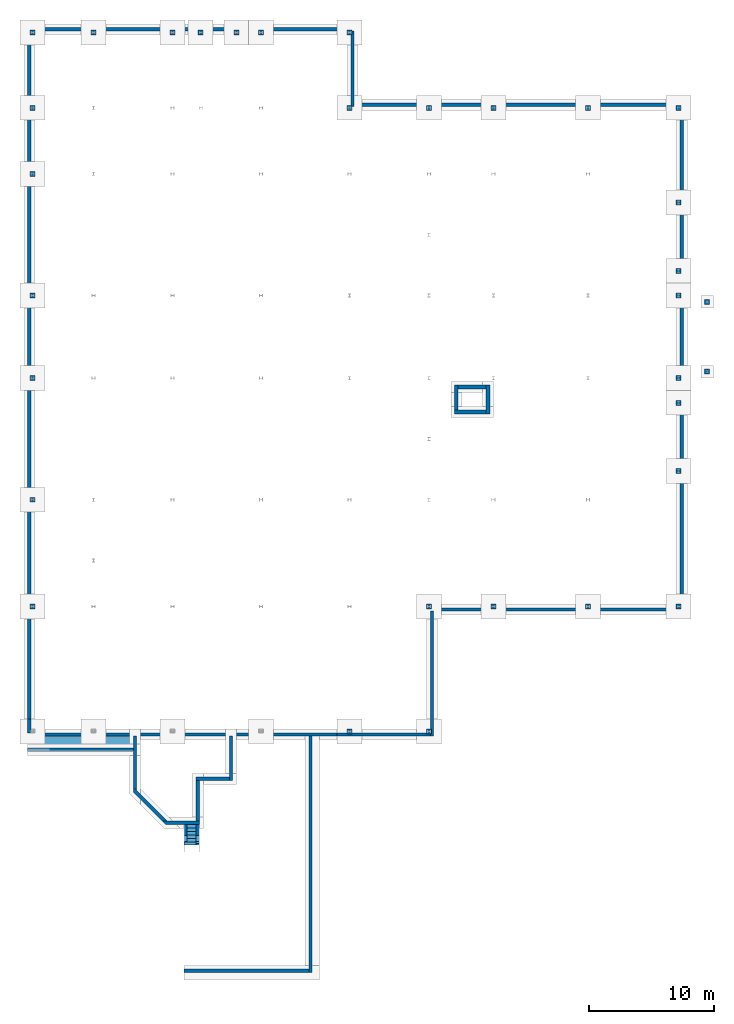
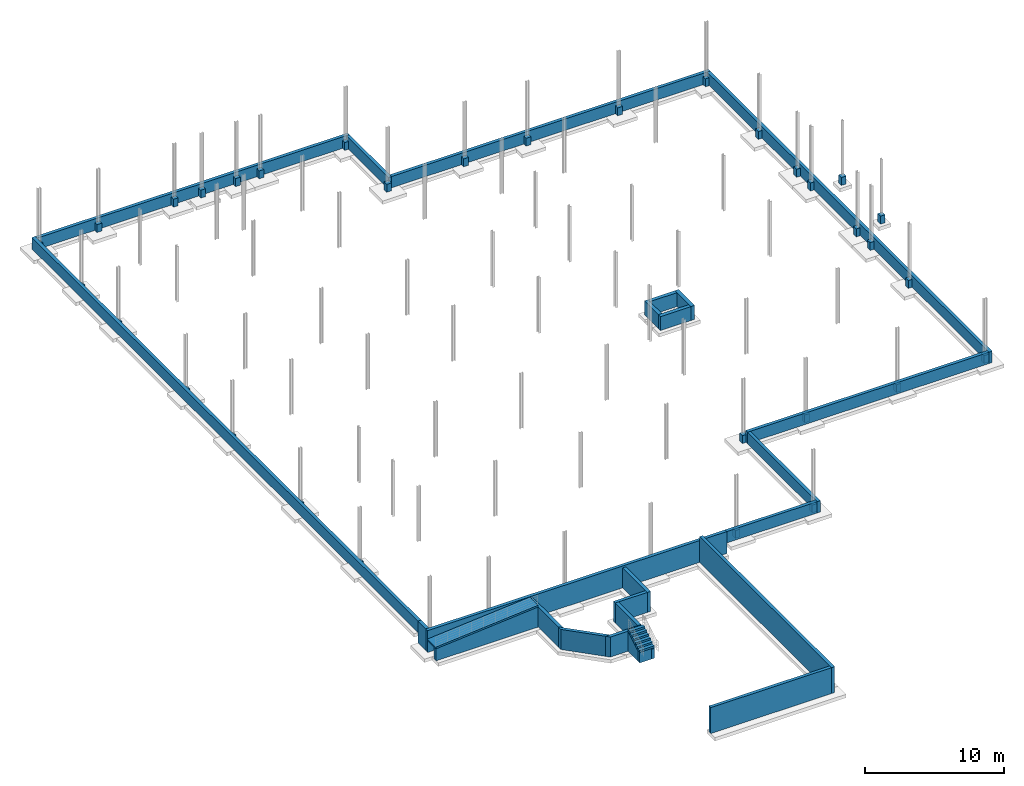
# One storey, part 10 of 11: 32 columns, 26 walls, 1 ramp flight, 1 stair flight, 2 openings, 2 elements without a shape of their own.
"""IFC2X3 building model written with IfcOpenShell, lengths in metres."""

from ifc_helpers import new_model, entity, si_unit, converted_unit, frame, frame_2d, origin, place, context, project, spatial, polyline, rectangle, outline, extrude, clip, halfspace, source, transform, mapped, material, layer, layer_set, layer_usage, type_object, type_shapes, element, aggregate, save


model = new_model("IFC2X3")

# Units and contexts
model_context = context("Model", 3, precision=1e-09, world=origin())
plan_context = context("Plan", 3, precision=1e-09, world=origin())
ifc_project = project(units=[si_unit("LENGTHUNIT", "METRE"), si_unit("AREAUNIT", "SQUARE_METRE"), si_unit("VOLUMEUNIT", "CUBIC_METRE"), converted_unit("PLANEANGLEUNIT", "DEGREE", entity("IfcRatioMeasure", 0.01745329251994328), si_unit("PLANEANGLEUNIT", "RADIAN"), dimensions=[0, 0, 0, 0, 0, 0, 0]), si_unit("TIMEUNIT", "SECOND")], contexts=[model_context, plan_context])

# Site, building, storey
site_placement = place(None, origin())
site = spatial("IfcSite", under=ifc_project, at=site_placement, Name="Default", CompositionType="ELEMENT")
building_placement = place(site_placement, origin())
building = spatial("IfcBuilding", under=site, at=building_placement, CompositionType="ELEMENT")
storey_placement = place(building_placement, frame((0.0, 0.0, -1.0)))
storey = spatial("IfcBuildingStorey", under=building, at=storey_placement, Name="TOF Footing", CompositionType="ELEMENT", Elevation=-1.000000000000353)

# Columns
ifc_material_1 = material(Name="Concrete - Cast-in-Place Concrete")
column_type = type_object("IfcColumnType", Name="400 x 400mm", PredefinedType="COLUMN")
shared_shape = source(origin(), model_context, "Body", "SweptSolid", [
    extrude(rectangle(XDim=0.4, YDim=0.4, at=frame_2d((0.0, 0.0), x_axis=(0.0, -1.0))), origin(), (0.0, 0.0, 1.0), 0.6950000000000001),
])
type_shapes(column_type, [shared_shape])
for number, where, z_axis, x_axis, name in (
    (1, (-47.0, 56.14000000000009, 0.0), (0.0, 0.0, 1.0), (0.0, 1.0, 0.0), "M_Concrete-Rectangular-Column:400 x 400mm:400 x 400mm"),
    (2, (-51.89999999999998, 56.14000000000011, 0.0), (0.0, 0.0, 1.0), (0.0, 1.0, 0.0), "M_Concrete-Rectangular-Column:400 x 400mm:400 x 400mm"),
):
    element("IfcColumn", number, at=place(storey_placement, frame(where, z_axis=z_axis, x_axis=x_axis)), inside=storey, type_object=column_type, material=ifc_material_1, Name=name, ObjectType="400 x 400mm", context=model_context, shape_type="MappedRepresentation", body=[
        mapped(shared_shape, transform((0.0, 0.0, 0.0), scale=1.0)),
    ])
column_1_placement = place(storey_placement, frame((0.0, 26.39881580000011, 0.0)))
element("IfcColumn", 3, at=column_1_placement, inside=storey, type_object=column_type, material=ifc_material_1, Name="M_Concrete-Rectangular-Column:400 x 400mm:400 x 400mm", ObjectType="400 x 400mm", context=model_context, shape_type="MappedRepresentation", body=[
    mapped(shared_shape, transform((0.0, 0.0, 0.0), scale=1.0)),
])
for number, where, z_axis, x_axis, name in (
    (4, (-14.87997499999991, 50.08999999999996, 0.0), (0.0, 0.0, 1.0), (0.0, 1.0, 0.0), "M_Concrete-Rectangular-Column:400 x 400mm:400 x 400mm"),
    (5, (-51.89999999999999, 44.78000000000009, 0.0), (0.0, 0.0, 1.0), (0.0, -1.0, 0.0), "M_Concrete-Rectangular-Column:400 x 400mm:400 x 400mm"),
    (6, (-7.280000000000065, 10.03999999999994, 0.0), (0.0, 0.0, 1.0), (0.0, 1.0, 0.0), "M_Concrete-Rectangular-Column:400 x 400mm:400 x 400mm"),
    (7, (-35.50999999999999, 56.14000000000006, 0.0), (0.0, 0.0, 1.0), (0.0, 1.0, 0.0), "M_Concrete-Rectangular-Column:400 x 400mm:400 x 400mm"),
    (8, (-26.44, 50.09, 0.0), (0.0, 0.0, 1.0), (0.0, 1.0, 0.0), "M_Concrete-Rectangular-Column:400 x 400mm:400 x 400mm"),
    (9, (-38.38999999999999, 56.14000000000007, 0.0), (0.0, 0.0, 1.0), (0.0, 1.0, 0.0), "M_Concrete-Rectangular-Column:400 x 400mm:400 x 400mm"),
    (10, (0.0, 42.47764480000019, 0.0), (0.0, 0.0, 1.0), (-1.0, 0.0, 0.0), "M_Concrete-Rectangular-Column:400 x 400mm:400 x 400mm"),
):
    element("IfcColumn", number, at=place(storey_placement, frame(where, z_axis=z_axis, x_axis=x_axis)), inside=storey, type_object=column_type, material=ifc_material_1, Name=name, ObjectType="400 x 400mm", context=model_context, shape_type="MappedRepresentation", body=[
        mapped(shared_shape, transform((0.0, 0.0, 0.0), scale=1.0)),
    ])
column_2_placement = place(storey_placement, frame((2.284999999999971, 28.89499999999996, 0.0)))
element("IfcColumn", 11, at=column_2_placement, inside=storey, type_object=column_type, material=ifc_material_1, Name="M_Concrete-Rectangular-Column:400 x 400mm:400 x 400mm", ObjectType="400 x 400mm", context=model_context, shape_type="MappedRepresentation", body=[
    mapped(shared_shape, transform((0.0, 0.0, 0.0), scale=1.0)),
])
column_3_placement = place(storey_placement, frame((-26.43999999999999, 56.14000000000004, 0.0), z_axis=(0.0, 0.0, 1.0), x_axis=(0.0, 1.0, 0.0)))
element("IfcColumn", 12, at=column_3_placement, inside=storey, type_object=column_type, material=ifc_material_1, Name="M_Concrete-Rectangular-Column:400 x 400mm:400 x 400mm", ObjectType="400 x 400mm", context=model_context, shape_type="MappedRepresentation", body=[
    mapped(shared_shape, transform((0.0, 0.0, 0.0), scale=1.0)),
])
column_4_placement = place(storey_placement, frame((0.0, 28.37999999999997, 0.0)))
element("IfcColumn", 13, at=column_4_placement, inside=storey, type_object=column_type, material=ifc_material_1, Name="M_Concrete-Rectangular-Column:400 x 400mm:400 x 400mm", ObjectType="400 x 400mm", context=model_context, shape_type="MappedRepresentation", body=[
    mapped(shared_shape, transform((0.0, 0.0, 0.0), scale=1.0)),
])
for number, where, z_axis, x_axis, name in (
    (14, (-14.87997499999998, 10.03999999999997, 0.0), (0.0, 0.0, 1.0), (0.0, 1.0, 0.0), "M_Concrete-Rectangular-Column:400 x 400mm:400 x 400mm"),
    (15, (0.0, 10.03999999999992, 0.0), (0.0, 0.0, 1.0), (0.0, 1.0, 0.0), "M_Concrete-Rectangular-Column:400 x 400mm:400 x 400mm"),
):
    element("IfcColumn", number, at=place(storey_placement, frame(where, z_axis=z_axis, x_axis=x_axis)), inside=storey, type_object=column_type, material=ifc_material_1, Name=name, ObjectType="400 x 400mm", context=model_context, shape_type="MappedRepresentation", body=[
        mapped(shared_shape, transform((0.0, 0.0, 0.0), scale=1.0)),
    ])
column_5_placement = place(storey_placement, frame((0.0, 20.90889399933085, 0.0)))
element("IfcColumn", 16, at=column_5_placement, inside=storey, type_object=column_type, material=ifc_material_1, Name="M_Concrete-Rectangular-Column:400 x 400mm:400 x 400mm", ObjectType="400 x 400mm", context=model_context, shape_type="MappedRepresentation", body=[
    mapped(shared_shape, transform((0.0, 0.0, 0.0), scale=1.0)),
])
for number, where, z_axis, x_axis, name in (
    (17, (-20.05999999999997, 50.08999999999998, 0.0), (0.0, 0.0, 1.0), (0.0, 1.0, 0.0), "M_Concrete-Rectangular-Column:400 x 400mm:400 x 400mm"),
    (18, (-51.90000000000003, 18.61000000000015, 0.0), (0.0, 0.0, 1.0), (0.0, 1.0, 0.0), "M_Concrete-Rectangular-Column:400 x 400mm:400 x 400mm"),
    (19, (-51.89999999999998, 50.09000000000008, 0.0), (0.0, 0.0, 1.0), (0.0, -1.0, 0.0), "M_Concrete-Rectangular-Column:400 x 400mm:400 x 400mm"),
    (20, (-51.90000000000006, 10.04000000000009, 0.0), (0.0, 0.0, 1.0), (0.0, 1.0, 0.0), "M_Concrete-Rectangular-Column:400 x 400mm:400 x 400mm"),
    (21, (-40.65999999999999, 56.14000000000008, 0.0), (0.0, 0.0, 1.0), (0.0, 1.0, 0.0), "M_Concrete-Rectangular-Column:400 x 400mm:400 x 400mm"),
    (22, (-7.279999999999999, 50.08999999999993, 0.0), (0.0, 0.0, 1.0), (0.0, 1.0, 0.0), "M_Concrete-Rectangular-Column:400 x 400mm:400 x 400mm"),
    (23, (-20.06000000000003, 10.03999999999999, 0.0), (0.0, 0.0, 1.0), (0.0, 1.0, 0.0), "M_Concrete-Rectangular-Column:400 x 400mm:400 x 400mm"),
    (24, (0.0, 36.99124480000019, 0.0), (0.0, 0.0, 1.0), (-1.0, 0.0, 0.0), "M_Concrete-Rectangular-Column:400 x 400mm:400 x 400mm"),
    (25, (-51.90000000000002, 28.38000000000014, 0.0), (0.0, 0.0, 1.0), (0.0, -1.0, 0.0), "M_Concrete-Rectangular-Column:400 x 400mm:400 x 400mm"),
    (26, (-20.06000000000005, 0.0, 0.0), (0.0, 0.0, 1.0), (0.0, 1.0, 0.0), "M_Concrete-Rectangular-Column:400 x 400mm:400 x 400mm"),
    (27, (-33.54999999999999, 56.14000000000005, 0.0), (0.0, 0.0, 1.0), (0.0, 1.0, 0.0), "M_Concrete-Rectangular-Column:400 x 400mm:400 x 400mm"),
    (28, (0.0, 35.00999999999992, 0.0), (0.0, 0.0, 1.0), (-1.0, 0.0, 0.0), "M_Concrete-Rectangular-Column:400 x 400mm:400 x 400mm"),
    (29, (0.0, 50.08999999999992, 0.0), (0.0, 0.0, 1.0), (0.0, 1.0, 0.0), "M_Concrete-Rectangular-Column:400 x 400mm:400 x 400mm"),
    (30, (-26.44000000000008, 0.0, 0.0), (0.0, 0.0, 1.0), (0.0, 1.0, 0.0), "M_Concrete-Rectangular-Column:400 x 400mm:400 x 400mm"),
    (31, (-51.90000000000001, 35.01000000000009, 0.0), (0.0, 0.0, 1.0), (0.0, -1.0, 0.0), "M_Concrete-Rectangular-Column:400 x 400mm:400 x 400mm"),
    (32, (2.284999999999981, 34.49499999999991, 0.0), (0.0, 0.0, 1.0), (-1.0, 0.0, 0.0), "M_Concrete-Rectangular-Column:400 x 400mm:400 x 400mm"),
):
    element("IfcColumn", number, at=place(storey_placement, frame(where, z_axis=z_axis, x_axis=x_axis)), inside=storey, type_object=column_type, material=ifc_material_1, Name=name, ObjectType="400 x 400mm", context=model_context, shape_type="MappedRepresentation", body=[
        mapped(shared_shape, transform((0.0, 0.0, 0.0), scale=1.0)),
    ])

# Walls
ifc_material_2 = material(Name="Concrete - Cast In Situ")
ifc_layer_1 = layer(ifc_material_2, 0.264)
ifc_layer_set_1 = layer_set([ifc_layer_1], Name="Basic Wall:Foundation - Concrete (264mm)")
ifc_layer_usage_1 = layer_usage(ifc_layer_set_1, "AXIS2", "NEGATIVE", 0.132)
wall_1_placement = place(storey_placement, frame((-27.44000000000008, -0.2480000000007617, -0.9149999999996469), z_axis=(0.0, 0.0, 1.0), x_axis=(-1.0, 0.0, 0.0)))
element("IfcWallStandardCase", 33, at=wall_1_placement, inside=storey, material=ifc_layer_usage_1, Name="Basic Wall:Foundation - Concrete (264mm)", ObjectType="Basic Wall:Foundation - Concrete (264mm)", context=model_context, shape_type="SweptSolid", body=[
    extrude(rectangle(XDim=24.84000000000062, YDim=0.264, at=frame_2d((12.42000000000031, 0.0), x_axis=(-1.0, 0.0))), origin(), (0.0, 0.0, 1.0), 1.914999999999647),
])
wall_2_placement = place(storey_placement, frame((-43.66840000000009, -4.740647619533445, -0.9149999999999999), z_axis=(0.0, 0.0, 1.0), x_axis=(0.0, 1.0, 0.0)))
element("IfcWallStandardCase", 34, at=wall_2_placement, inside=storey, material=ifc_layer_usage_1, Name="Basic Wall:Foundation - Concrete (264mm)", ObjectType="Basic Wall:Foundation - Concrete (264mm)", context=model_context, shape_type="SweptSolid", body=[
    extrude(outline(polyline([(4.360647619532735, -0.1320000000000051), (4.360647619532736, 0.1319999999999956), (3.404647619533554, 0.1319999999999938), (3.140647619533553, 0.1319999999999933), (0.264000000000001, 0.1319999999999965), (0.0, -0.1320000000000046), (4.360647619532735, -0.1320000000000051)])), origin(), (0.0, 0.0, 1.0), 1.765),
])
wall_3_placement = place(storey_placement, frame((-52.14800000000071, -0.1160000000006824, -0.9149999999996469), z_axis=(0.0, 0.0, 1.0), x_axis=(0.0, 1.0, 0.0)))
element("IfcWallStandardCase", 35, at=wall_3_placement, inside=storey, material=ifc_layer_usage_1, Name="Basic Wall:Foundation - Concrete (264mm)", ObjectType="Basic Wall:Foundation - Concrete (264mm)", context=model_context, shape_type="SweptSolid", body=[
    extrude(rectangle(XDim=1.11600000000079, YDim=0.263999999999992, at=frame_2d((0.5580000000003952, 0.0), x_axis=(-1.0, 0.0))), origin(), (0.0, 0.0, 1.0), 1.914999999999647),
])
wall_4_placement = place(storey_placement, frame((-41.17762879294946, -7.286095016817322, -0.9149999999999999), z_axis=(0.0, 0.0, 1.0), x_axis=(-0.7071067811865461, 0.7071067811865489, 0.0)))
element("IfcWallStandardCase", 36, at=wall_4_placement, inside=storey, material=ifc_layer_usage_1, Name="Basic Wall:Foundation - Concrete (264mm)", ObjectType="Basic Wall:Foundation - Concrete (264mm)", context=model_context, shape_type="SweptSolid", body=[
    extrude(outline(polyline([(3.841158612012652, -0.1319999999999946), (3.577158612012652, 0.1320000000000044), (0.2640000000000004, 0.1320000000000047), (0.0, -0.131999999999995), (3.467806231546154, -0.1319999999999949), (3.841158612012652, -0.1319999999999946)])), origin(), (0.0, 0.0, 1.0), 1.765),
])
ifc_layer_2 = layer(ifc_material_2, 0.3)
ifc_layer_set_2 = layer_set([ifc_layer_2], Name="Basic Wall:Foundation - Concrete (300mm)")
ifc_layer_usage_2 = layer_usage(ifc_layer_set_2, "AXIS2", "POSITIVE", -0.15)
wall_5_placement = place(storey_placement, frame((-17.85520000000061, 25.80739999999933, -0.3692), z_axis=(0.0, 0.0, 1.0), x_axis=(0.0, 1.0, 0.0)))
element("IfcWallStandardCase", 37, at=wall_5_placement, inside=storey, material=ifc_layer_usage_2, Name="Basic Wall:Foundation - Concrete (300mm)", ObjectType="Basic Wall:Foundation - Concrete (300mm)", context=model_context, shape_type="SweptSolid", body=[
    extrude(rectangle(XDim=2.014499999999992, YDim=0.3000000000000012, at=frame_2d((1.007249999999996, 0.0), x_axis=(-1.0, 0.0))), origin(), (0.0, 0.0, 1.0), 1.2192),
])
wall_6_placement = place(storey_placement, frame((-15.47000000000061, 25.65739999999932, -0.3692), z_axis=(0.0, 0.0, 1.0), x_axis=(-1.0, 0.0, 0.0)))
element("IfcWallStandardCase", 38, at=wall_6_placement, inside=storey, material=ifc_layer_usage_2, Name="Basic Wall:Foundation - Concrete (300mm)", ObjectType="Basic Wall:Foundation - Concrete (300mm)", context=model_context, shape_type="SweptSolid", body=[
    extrude(rectangle(XDim=2.5352, YDim=0.3000000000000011, at=frame_2d((1.2676, 0.0), x_axis=(-1.0, 0.0))), origin(), (0.0, 0.0, 1.0), 1.2192),
])
wall_7_placement = place(storey_placement, frame((-17.70520000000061, 27.67189999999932, -0.3692)))
element("IfcWallStandardCase", 39, at=wall_7_placement, inside=storey, material=ifc_layer_usage_2, Name="Basic Wall:Foundation - Concrete (300mm)", ObjectType="Basic Wall:Foundation - Concrete (300mm)", context=model_context, shape_type="SweptSolid", body=[
    extrude(rectangle(XDim=2.235200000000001, YDim=0.3000000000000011, at=frame_2d((1.1176, 0.0), x_axis=(-1.0, 0.0))), origin(), (0.0, 0.0, 1.0), 1.2192),
])
wall_8_placement = place(storey_placement, frame((-52.14800000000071, 1.0, 0.0), z_axis=(0.0, 0.0, 1.0), x_axis=(0.0, 1.0, 0.0)))
element("IfcWallStandardCase", 40, at=wall_8_placement, inside=storey, material=ifc_layer_usage_1, Name="Basic Wall:Foundation - Concrete (264mm)", ObjectType="Basic Wall:Foundation - Concrete (264mm)", context=model_context, shape_type="SweptSolid", body=[
    extrude(rectangle(XDim=55.51999999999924, YDim=0.263999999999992, at=frame_2d((27.75999999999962, 0.0), x_axis=(-1.0, 0.0))), origin(), (0.0, 0.0, 1.0), 1.0),
])

# Wall, opening
wall_9_placement = place(storey_placement, frame((-38.6215618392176, -7.45675692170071, -0.9149999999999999), z_axis=(0.0, 0.0, 1.0), x_axis=(0.0, -1.0, 0.0)))
wall_9 = element("IfcWallStandardCase", 41, at=wall_9_placement, inside=storey, material=ifc_layer_usage_1, Name="Basic Wall:Foundation - Concrete (264mm)", ObjectType="Basic Wall:Foundation - Concrete (264mm)", context=model_context, shape_type="Clipping", body=[
    clip(extrude(rectangle(XDim=1.679999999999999, YDim=0.2640000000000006, at=frame_2d((0.8399999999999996, 0.0), x_axis=(-1.0, 0.0))), origin(), (0.0, 0.0, 1.0), 1.765), halfspace(frame((0.0, 0.0, 1.740437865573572), z_axis=(0.470516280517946, 0.0, 0.8823913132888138), x_axis=(0.0, -1.0, 0.0)), False)),
])
opening_1_placement = place(wall_9_placement, frame((0.9782452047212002, 0.132000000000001, 1.190145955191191)))
element("IfcOpeningElement", 42, at=opening_1_placement, cuts=wall_9, Name="Basic Wall:Foundation - Concrete (264mm):2", ObjectType="Opening", context=model_context, shape_type="SweptSolid", body=[
    extrude(outline(polyline([(-1.122064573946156, -0.02749471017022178), (0.4917456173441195, -0.02749471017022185), (0.6303189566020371, 0.05498942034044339), (-1.122064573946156, -0.02749471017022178)])), frame((0.0, 0.0, 0.0), z_axis=(0.0, -1.0, 0.0), x_axis=(0.8592928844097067, 0.0, -0.5114838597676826)), (0.0, 0.0, 1.0), 0.264),
])

# Walls
wall_10_placement = place(storey_placement, frame((-19.9440000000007, -0.2480000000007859, 0.0), z_axis=(0.0, 0.0, 1.0), x_axis=(-1.0, 0.0, 0.0)))
element("IfcWallStandardCase", 43, at=wall_10_placement, inside=storey, material=ifc_layer_usage_1, Name="Basic Wall:Foundation - Concrete (264mm)", ObjectType="Basic Wall:Foundation - Concrete (264mm)", context=model_context, shape_type="SweptSolid", body=[
    extrude(rectangle(XDim=7.495999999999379, YDim=0.264, at=frame_2d((3.747999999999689, 0.0), x_axis=(-1.0, 0.0))), origin(), (0.0, 0.0, 1.0), 1.0),
])
wall_11_placement = place(storey_placement, frame((-38.48956183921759, -7.324756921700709, -0.9149999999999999), z_axis=(0.0, 0.0, 1.0), x_axis=(-1.0, 0.0, 0.0)))
element("IfcWallStandardCase", 44, at=wall_11_placement, inside=storey, material=ifc_layer_usage_1, Name="Basic Wall:Foundation - Concrete (264mm)", ObjectType="Basic Wall:Foundation - Concrete (264mm)", context=model_context, shape_type="SweptSolid", body=[
    extrude(outline(polyline([(2.968081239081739, -0.1319999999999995), (2.704081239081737, 0.1320000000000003), (0.0, 0.1320000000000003), (0.0, -0.1319999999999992), (0.264000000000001, -0.1319999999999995), (2.594728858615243, -0.1319999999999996), (2.968081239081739, -0.1319999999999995)])), origin(), (0.0, 0.0, 1.0), 1.765),
])
wall_12_placement = place(storey_placement, frame((-35.9615618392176, -0.3800000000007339, -0.9149999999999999), z_axis=(0.0, 0.0, 1.0), x_axis=(0.0, -1.0, 0.0)))
element("IfcWallStandardCase", 45, at=wall_12_placement, inside=storey, material=ifc_layer_usage_1, Name="Basic Wall:Foundation - Concrete (264mm)", ObjectType="Basic Wall:Foundation - Concrete (264mm)", context=model_context, shape_type="SweptSolid", body=[
    extrude(rectangle(XDim=3.559999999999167, YDim=0.2640000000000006, at=frame_2d((1.779999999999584, 0.0), x_axis=(-1.0, 0.0))), origin(), (0.0, 0.0, 1.0), 1.765),
])
wall_13_placement = place(storey_placement, frame((-26.06000000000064, 50.33799999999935, 0.0)))
element("IfcWallStandardCase", 46, at=wall_13_placement, inside=storey, material=ifc_layer_usage_1, Name="Basic Wall:Foundation - Concrete (264mm)", ObjectType="Basic Wall:Foundation - Concrete (264mm)", context=model_context, shape_type="SweptSolid", body=[
    extrude(rectangle(XDim=26.44000000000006, YDim=0.263999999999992, at=frame_2d((13.22000000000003, 0.0), x_axis=(-1.0, 0.0))), origin(), (0.0, 0.0, 1.0), 1.0),
])
wall_14_placement = place(storey_placement, frame((-15.32000000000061, 27.82189999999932, -0.3692), z_axis=(0.0, 0.0, 1.0), x_axis=(0.0, -1.0, 0.0)))
element("IfcWallStandardCase", 47, at=wall_14_placement, inside=storey, material=ifc_layer_usage_2, Name="Basic Wall:Foundation - Concrete (300mm)", ObjectType="Basic Wall:Foundation - Concrete (300mm)", context=model_context, shape_type="SweptSolid", body=[
    extrude(rectangle(XDim=2.314500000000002, YDim=0.3000000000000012, at=frame_2d((1.157250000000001, 0.0), x_axis=(-1.0, 0.0))), origin(), (0.0, 0.0, 1.0), 1.2192),
])

# Wall, opening
wall_15_placement = place(storey_placement, frame((-39.6075618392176, -8.872756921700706, -0.9149999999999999), z_axis=(0.0, 0.0, 1.0), x_axis=(0.0, 1.0, 0.0)))
wall_15 = element("IfcWallStandardCase", 48, at=wall_15_placement, inside=storey, material=ifc_layer_usage_1, Name="Basic Wall:Foundation - Concrete (264mm)", ObjectType="Basic Wall:Foundation - Concrete (264mm)", context=model_context, shape_type="Clipping", body=[
    clip(extrude(rectangle(XDim=1.415999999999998, YDim=0.263999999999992, at=frame_2d((0.7079999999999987, 0.0), x_axis=(-1.0, 0.0))), origin(), (0.0, 0.0, 1.0), 1.765), halfspace(frame((1.415999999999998, 0.0, 1.740437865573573), z_axis=(-0.4705162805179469, 0.0, 0.8823913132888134), x_axis=(0.0, 1.0, 0.0)), False)),
])
opening_2_placement = place(wall_15_placement, frame((0.4377547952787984, 0.131999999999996, 1.190145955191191)))
element("IfcOpeningElement", 49, at=opening_2_placement, cuts=wall_15, Name="Basic Wall:Foundation - Concrete (264mm):2", ObjectType="Opening", context=model_context, shape_type="SweptSolid", body=[
    extrude(outline(polyline([(-1.122116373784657, -0.02529250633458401), (0.6322073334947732, -0.02529250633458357), (0.4899090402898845, 0.05058501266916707), (-1.122116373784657, -0.02529250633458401)])), frame((0.0, 0.0, 0.0), z_axis=(0.0, -1.0, 0.0), x_axis=(-0.8823913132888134, 0.0, -0.4705162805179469)), (0.0, 0.0, 1.0), 0.264),
])

# Walls
wall_16_placement = place(storey_placement, frame((-38.62156183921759, -3.939999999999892, -0.9149999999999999), z_axis=(0.0, 0.0, 1.0), x_axis=(0.0, -1.0, 0.0)))
element("IfcWallStandardCase", 50, at=wall_16_placement, inside=storey, material=ifc_layer_usage_1, Name="Basic Wall:Foundation - Concrete (264mm)", ObjectType="Basic Wall:Foundation - Concrete (264mm)", context=model_context, shape_type="SweptSolid", body=[
    extrude(rectangle(XDim=3.252756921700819, YDim=0.2640000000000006, at=frame_2d((1.62637846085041, 0.0), x_axis=(-1.0, 0.0))), origin(), (0.0, 0.0, 1.0), 1.765),
])
wall_17_placement = place(storey_placement, frame((-26.19200000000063, 56.25599999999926, 0.0), z_axis=(0.0, 0.0, 1.0), x_axis=(0.0, -1.0, 0.0)))
element("IfcWallStandardCase", 51, at=wall_17_placement, inside=storey, material=ifc_layer_usage_1, Name="Basic Wall:Foundation - Concrete (264mm)", ObjectType="Basic Wall:Foundation - Concrete (264mm)", context=model_context, shape_type="SweptSolid", body=[
    extrude(rectangle(XDim=6.049999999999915, YDim=0.2640000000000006, at=frame_2d((3.024999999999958, 0.0), x_axis=(-1.0, 0.0))), origin(), (0.0, 0.0, 1.0), 1.0),
])
wall_18_placement = place(storey_placement, frame((-36.0935618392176, -3.8079999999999, -0.9149999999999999), z_axis=(0.0, 0.0, 1.0), x_axis=(-1.0, 0.0, 0.0)))
element("IfcWallStandardCase", 52, at=wall_18_placement, inside=storey, material=ifc_layer_usage_1, Name="Basic Wall:Foundation - Concrete (264mm)", ObjectType="Basic Wall:Foundation - Concrete (264mm)", context=model_context, shape_type="SweptSolid", body=[
    extrude(rectangle(XDim=2.659999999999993, YDim=0.2639999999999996, at=frame_2d((1.329999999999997, 0.0), x_axis=(-1.0, 0.0))), origin(), (0.0, 0.0, 1.0), 1.765),
])
wall_19_placement = place(storey_placement, frame((-38.7535618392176, -9.004756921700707, -0.9149999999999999), z_axis=(0.0, 0.0, 1.0), x_axis=(-1.0, 0.0, 0.0)))
element("IfcWallStandardCase", 53, at=wall_19_placement, inside=storey, material=ifc_layer_usage_1, Name="Basic Wall:Foundation - Concrete (264mm)", ObjectType="Basic Wall:Foundation - Concrete (264mm)", context=model_context, shape_type="SweptSolid", body=[
    extrude(rectangle(XDim=0.9859999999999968, YDim=0.2640000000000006, at=frame_2d((0.4929999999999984, 0.0), x_axis=(-1.0, 0.0))), origin(), (0.0, 0.0, 1.0), 0.9150000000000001),
])
wall_20_placement = place(storey_placement, frame((-19.81200000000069, 9.659999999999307, 0.0), z_axis=(0.0, 0.0, 1.0), x_axis=(0.0, -1.0, 0.0)))
element("IfcWallStandardCase", 54, at=wall_20_placement, inside=storey, material=ifc_layer_usage_1, Name="Basic Wall:Foundation - Concrete (264mm)", ObjectType="Basic Wall:Foundation - Concrete (264mm)", context=model_context, shape_type="SweptSolid", body=[
    extrude(rectangle(XDim=10.0400000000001, YDim=0.2640000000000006, at=frame_2d((5.020000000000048, 0.0), x_axis=(-1.0, 0.0))), origin(), (0.0, 0.0, 1.0), 1.0),
])
wall_21_placement = place(storey_placement, frame((-29.7085618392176, -19.2275030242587, -0.9149999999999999), z_axis=(0.0, 0.0, 1.0), x_axis=(-1.0, 0.0, 0.0)))
element("IfcWallStandardCase", 55, at=wall_21_placement, inside=storey, material=ifc_layer_usage_1, Name="Basic Wall:Foundation - Concrete (264mm)", ObjectType="Basic Wall:Foundation - Concrete (264mm)", context=model_context, shape_type="SweptSolid", body=[
    extrude(rectangle(XDim=10.03100000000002, YDim=0.2640000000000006, at=frame_2d((5.01550000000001, 0.0), x_axis=(-1.0, 0.0))), origin(), (0.0, 0.0, 1.0), 2.275),
])
wall_22_placement = place(storey_placement, frame((0.1159999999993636, 9.791999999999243, 0.0), z_axis=(0.0, 0.0, 1.0), x_axis=(-1.0, 0.0, 0.0)))
element("IfcWallStandardCase", 56, at=wall_22_placement, inside=storey, material=ifc_layer_usage_1, Name="Basic Wall:Foundation - Concrete (264mm)", ObjectType="Basic Wall:Foundation - Concrete (264mm)", context=model_context, shape_type="SweptSolid", body=[
    extrude(rectangle(XDim=20.06000000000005, YDim=0.2639999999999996, at=frame_2d((10.03000000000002, 0.0), x_axis=(-1.0, 0.0))), origin(), (0.0, 0.0, 1.0), 1.0),
])
wall_23_placement = place(storey_placement, frame((-29.57656183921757, -0.380000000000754, -0.9149999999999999), z_axis=(0.0, 0.0, 1.0), x_axis=(0.0, -1.0, 0.0)))
element("IfcWallStandardCase", 57, at=wall_23_placement, inside=storey, material=ifc_layer_usage_1, Name="Basic Wall:Foundation - Concrete (264mm)", ObjectType="Basic Wall:Foundation - Concrete (264mm)", context=model_context, shape_type="SweptSolid", body=[
    extrude(rectangle(XDim=18.97950302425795, YDim=0.2640000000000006, at=frame_2d((9.489751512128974, 0.0), x_axis=(-1.0, 0.0))), origin(), (0.0, 0.0, 1.0), 2.275),
])
wall_24_placement = place(storey_placement, frame((0.2479999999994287, 50.20599999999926, 0.0), z_axis=(0.0, 0.0, 1.0), x_axis=(0.0, -1.0, 0.0)))
element("IfcWallStandardCase", 58, at=wall_24_placement, inside=storey, material=ifc_layer_usage_1, Name="Basic Wall:Foundation - Concrete (264mm)", ObjectType="Basic Wall:Foundation - Concrete (264mm)", context=model_context, shape_type="SweptSolid", body=[
    extrude(rectangle(XDim=40.54600000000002, YDim=0.2640000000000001, at=frame_2d((20.27300000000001, 0.0), x_axis=(-1.0, 0.0))), origin(), (0.0, 0.0, 1.0), 1.0),
])
wall_25_placement = place(storey_placement, frame((-52.01600000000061, 56.38799999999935, 0.0)))
element("IfcWallStandardCase", 59, at=wall_25_placement, inside=storey, material=ifc_layer_usage_1, Name="Basic Wall:Foundation - Concrete (264mm)", ObjectType="Basic Wall:Foundation - Concrete (264mm)", context=model_context, shape_type="SweptSolid", body=[
    extrude(rectangle(XDim=25.95599999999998, YDim=0.263999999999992, at=frame_2d((12.97799999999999, 0.0), x_axis=(-1.0, 0.0))), origin(), (0.0, 0.0, 1.0), 1.0),
])
wall_26_placement = place(storey_placement, frame((-43.80040000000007, -1.467999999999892, -0.9149999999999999), z_axis=(0.0, 0.0, 1.0), x_axis=(-1.0, 0.0, 0.0)))
element("IfcWallStandardCase", 60, at=wall_26_placement, inside=storey, material=ifc_layer_usage_1, Name="Basic Wall:Foundation - Concrete (264mm)", ObjectType="Basic Wall:Foundation - Concrete (264mm)", context=model_context, shape_type="Clipping", body=[
    clip(extrude(rectangle(XDim=8.479599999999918, YDim=0.2640000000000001, at=frame_2d((4.239799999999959, 0.0), x_axis=(-1.0, 0.0))), origin(), (0.0, 0.0, 1.0), 1.915), halfspace(frame((0.0, -0.132, 1.764480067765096), z_axis=(0.08304547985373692, 0.0, 0.9965457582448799), x_axis=(0.0, 1.0, 0.0)), False)),
])

# Stair, stair flight
stair_placement = place(storey_placement, origin())
stair = element("IfcStair", 61, at=stair_placement, inside=storey, Name="Stair:Monolithic Concrete Stair", ObjectType="Stair:Monolithic Concrete Stair", ShapeType="STRAIGHT_RUN_STAIR")
stair_flight_placement = place(storey_placement, origin())
stair_flight = element("IfcStairFlight", 62, at=stair_flight_placement, Name="Stair:Monolithic Concrete Stair:1", ObjectType="Stair:Monolithic Concrete Stair", NumberOfRiser=6, NumberOfTreads=6, RiserHeight=0.5468066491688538, TreadLength=0.9186351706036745, context=model_context, shape_type="SweptSolid", body=[
    extrude(outline(polyline([(0.3550291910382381, -0.8035509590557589), (0.5216958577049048, -0.8035509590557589), (0.5216958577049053, -0.5102865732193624), (-0.3037420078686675, 0.8764490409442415), (-0.4783041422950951, 0.8764490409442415), (-0.4783041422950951, 0.5964490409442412), (-0.3116374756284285, 0.5964490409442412), (-0.3116374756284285, 0.316449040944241), (-0.1449708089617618, 0.316449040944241), (-0.1449708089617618, 0.03644904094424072), (0.02169585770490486, 0.0364490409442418), (0.02169585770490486, -0.2435509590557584), (0.1883625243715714, -0.2435509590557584), (0.1883625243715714, -0.5235509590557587), (0.3550291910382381, -0.5235509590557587), (0.3550291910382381, -0.8035509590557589)])), frame((-39.73956183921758, -8.33320596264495, 0.5216958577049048), z_axis=(1.0, 0.0, 0.0), x_axis=(0.0, 0.0, -1.0)), (0.0, 0.0, 1.0), 1.250000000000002),
])
aggregate(stair, [stair_flight])

# Ramp, ramp flight
ramp_placement = place(storey_placement, origin())
ramp = element("IfcRamp", 63, at=ramp_placement, inside=storey, Name="Ramp:150mm Concrete ADA Ramp", ObjectType="Ramp:150mm Concrete ADA Ramp", ShapeType="STRAIGHT_RUN_RAMP")
ramp_flight_placement = place(storey_placement, origin())
ramp_flight = element("IfcRampFlight", 64, at=ramp_flight_placement, Name="Ramp:150mm Concrete ADA Ramp:1", ObjectType="Ramp:150mm Concrete ADA Ramp", context=model_context, shape_type="SweptSolid", body=[
    extrude(outline(polyline([(-0.4296099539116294, -4.252299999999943), (-0.2790900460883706, -4.252299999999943), (0.4296099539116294, 4.252299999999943), (0.2790900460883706, 4.252299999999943), (-0.4296099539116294, -4.252299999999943)])), frame((-48.05270000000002, -1.599999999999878, 0.5703900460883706), z_axis=(0.0, 1.0, 0.0), x_axis=(0.0, 0.0, -1.0)), (0.0, 0.0, 1.0), 1.195000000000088),
])
aggregate(ramp, [ramp_flight])

save(model, "model.ifc")
